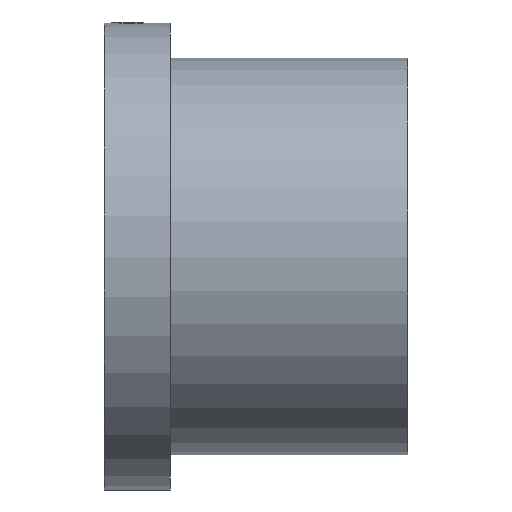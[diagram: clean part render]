
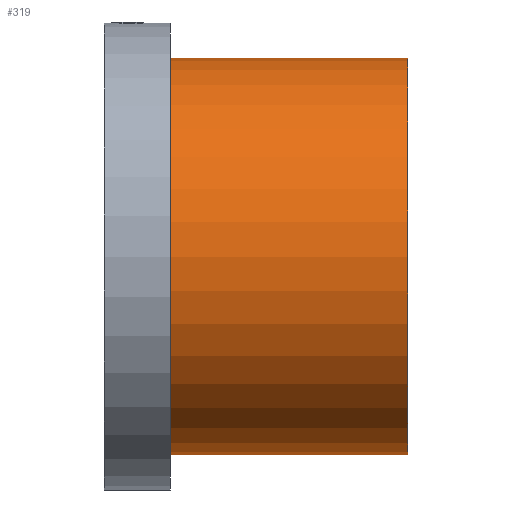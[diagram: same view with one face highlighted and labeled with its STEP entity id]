
A CAD part, front view. The second image highlights one B-rep face of the part: STEP entity #319.
In plain terms, the highlighted cylindrical face has radius 90 mm (diameter 180 mm), a partial arc.
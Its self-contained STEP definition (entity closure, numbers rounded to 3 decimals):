
#9 = CARTESIAN_POINT ( 'NONE',  ( 138., 0., 90. ) ) ;
#85 = DIRECTION ( 'NONE',  ( -1., 0., 0. ) ) ;
#97 = CIRCLE ( 'NONE', #2361, 90. ) ;
#180 = ORIENTED_EDGE ( 'NONE', *, *, #591, .T. ) ;
#183 = VECTOR ( 'NONE', #1738, 1000. ) ;
#234 = DIRECTION ( 'NONE',  ( -1., 0., 0. ) ) ;
#248 = VERTEX_POINT ( 'NONE', #1112 ) ;
#313 = ORIENTED_EDGE ( 'NONE', *, *, #572, .F. ) ;
#319 = ADVANCED_FACE ( 'NONE', ( #556 ), #787, .T. ) ;
#425 = VERTEX_POINT ( 'NONE', #1008 ) ;
#470 = DIRECTION ( 'NONE',  ( 0., 0., 1. ) ) ;
#556 = FACE_OUTER_BOUND ( 'NONE', #1545, .T. ) ;
#572 = EDGE_CURVE ( 'NONE', #1225, #248, #2353, .T. ) ;
#591 = EDGE_CURVE ( 'NONE', #425, #2584, #97, .T. ) ;
#787 = CYLINDRICAL_SURFACE ( 'NONE', #2100, 90. ) ;
#961 = CARTESIAN_POINT ( 'NONE',  ( 30., 0., -90. ) ) ;
#1008 = CARTESIAN_POINT ( 'NONE',  ( 138., 0., -90. ) ) ;
#1038 = CARTESIAN_POINT ( 'NONE',  ( -0.1, 0., 90. ) ) ;
#1112 = CARTESIAN_POINT ( 'NONE',  ( 30., 0., 90. ) ) ;
#1200 = ORIENTED_EDGE ( 'NONE', *, *, #1500, .T. ) ;
#1221 = ORIENTED_EDGE ( 'NONE', *, *, #1400, .F. ) ;
#1225 = VERTEX_POINT ( 'NONE', #961 ) ;
#1400 = EDGE_CURVE ( 'NONE', #425, #1225, #2252, .T. ) ;
#1500 = EDGE_CURVE ( 'NONE', #2584, #248, #3018, .T. ) ;
#1514 = DIRECTION ( 'NONE',  ( -1., 0., 0. ) ) ;
#1518 = CARTESIAN_POINT ( 'NONE',  ( 138., 0., 0. ) ) ;
#1545 = EDGE_LOOP ( 'NONE', ( #1221, #180, #1200, #313 ) ) ;
#1552 = CARTESIAN_POINT ( 'NONE',  ( -0.1, 0., -90. ) ) ;
#1738 = DIRECTION ( 'NONE',  ( -1., 0., 0. ) ) ;
#1929 = DIRECTION ( 'NONE',  ( 0., 0., 1. ) ) ;
#1931 = DIRECTION ( 'NONE',  ( -1., 0., 0. ) ) ;
#1936 = CARTESIAN_POINT ( 'NONE',  ( 30., 0., 0. ) ) ;
#2013 = VECTOR ( 'NONE', #234, 1000. ) ;
#2100 = AXIS2_PLACEMENT_3D ( 'NONE', #2998, #85, #2880 ) ;
#2252 = LINE ( 'NONE', #1552, #183 ) ;
#2353 = CIRCLE ( 'NONE', #2596, 90. ) ;
#2361 = AXIS2_PLACEMENT_3D ( 'NONE', #1518, #1514, #470 ) ;
#2584 = VERTEX_POINT ( 'NONE', #9 ) ;
#2596 = AXIS2_PLACEMENT_3D ( 'NONE', #1936, #1931, #1929 ) ;
#2880 = DIRECTION ( 'NONE',  ( 0., 0., 1. ) ) ;
#2998 = CARTESIAN_POINT ( 'NONE',  ( -0.1, 0., 0. ) ) ;
#3018 = LINE ( 'NONE', #1038, #2013 ) ;
